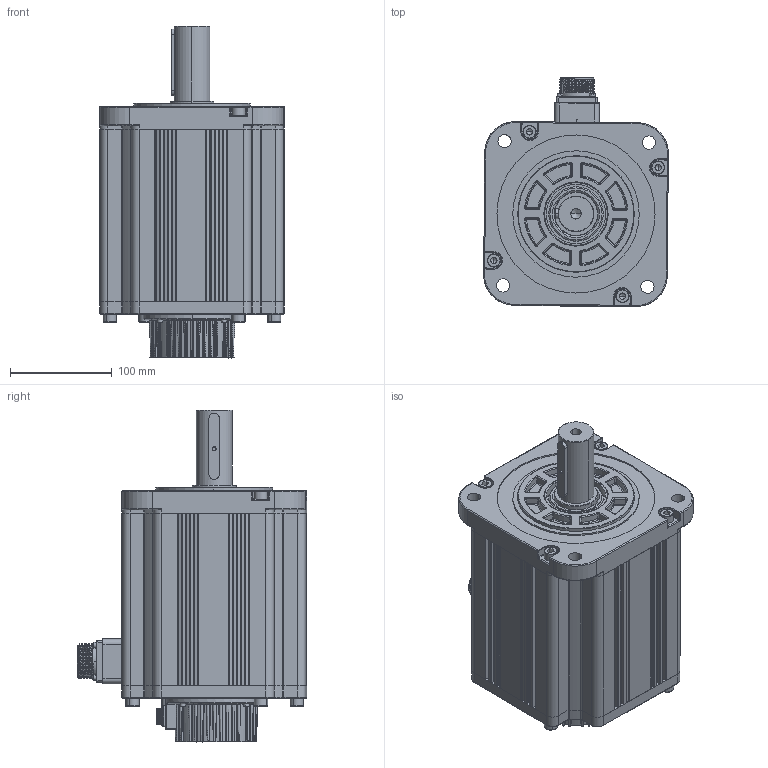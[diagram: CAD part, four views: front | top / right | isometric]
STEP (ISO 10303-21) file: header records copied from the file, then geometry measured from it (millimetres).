
FILE_DESCRIPTION (( 'STEP AP214' ), '1' );
FILE_NAME ('106.5酗沺郋 拸价陬.STEP', '2021-10-26T08:47:12', ( '' ), ( '' ), 'SwSTEP 2.0', 'SolidWorks 2014', '' );
FILE_SCHEMA (( 'AUTOMOTIVE_DESIGN' ));
Length unit declared in the file: millimetre
Products named in the file (16): 180#陔隅赽201019; SC180瑤脣釱1015; 106.5酗沺郋 拸价陬; SC晤鎢ん欶200908_10郋; 零件1^180#新电机-无刹车 201021; SC蚐猾 D00B999YF8-TC 44-62-10; 180#綴傷裔; SCSC瑤諾脣芛 16M-9H; 埴芛囀鞠褒 ISO 4762 M8 x 30 --- 30N; 180儂褲169.5; 埴芛囀鞠褒 ISO 4762 M3 x 10 --- 10N; 180粣-47沺郋; 坋趼攫芛蹟佪 M2X8-8  H type-N; SC180ヶ傷裔1009; 埴芛囀鞠褒 ISO 4762 M3 x 30 --- 18N; SCCMS3102A22-22P-Z
Assembly tree (31 placements, depth 3):
  106.5酗沺郋 拸价陬
    180#陔隅赽201019
      SC180ヶ傷裔1009
      SCCMS3102A22-22P-Z
      SC180瑤脣釱1015
      180儂褲169.5
    SC晤鎢ん欶200908_10郋
    SCSC瑤諾脣芛 16M-9H
    SC蚐猾 D00B999YF8-TC 44-62-10
    坋趼攫芛蹟佪 M2X8-8  H type-N  x4
    埴芛囀鞠褒 ISO 4762 M3 x 10 --- 10N  x4
    埴芛囀鞠褒 ISO 4762 M8 x 30 --- 30N  x8
    埴芛囀鞠褒 ISO 4762 M3 x 30 --- 18N  x4
    180#綴傷裔
    180粣-47沺郋
    零件1^180#新电机-无刹车 201021
Bounding box: 181.11 x 224.8 x 325.5 mm (x, y, z)
Volume: 2063166.4 mm3; surface area: 553929.4 mm2
Topology: 30 solids, 30 shells, 3095 faces, 7589 edges, 4457 vertices
Faces by surface type: cylinder 1021, bspline 994, plane 763, cone 253, torus 64
Entity records: 140911 total; most frequent: CARTESIAN_POINT 54266, ORIENTED_EDGE 12834, DIRECTION 10728, EDGE_CURVE 6417, AXIS2_PLACEMENT_3D 4328, VERTEX_POINT 3870, EDGE_LOOP 2857, UNCERTAINTY_MEASURE_WITH_UNIT 2716
